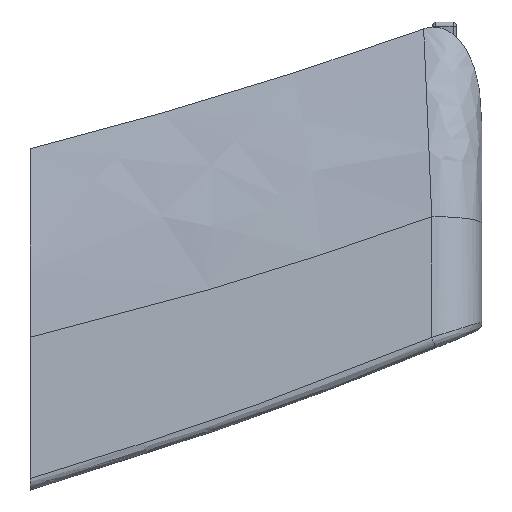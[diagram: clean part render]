
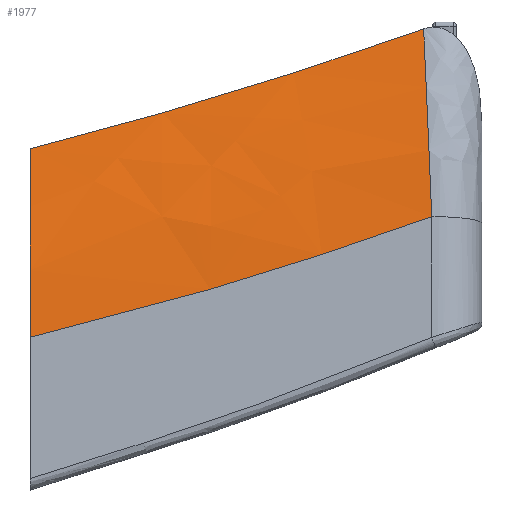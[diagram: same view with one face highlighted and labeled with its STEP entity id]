
A CAD part, top view. The second image highlights one B-rep face of the part: STEP entity #1977.
In plain terms, the highlighted free-form (B-spline) face has degree [3, 3] with [5, 4] control points.
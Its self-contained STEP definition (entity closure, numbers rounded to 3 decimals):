
#27=B_SPLINE_SURFACE_WITH_KNOTS('',3,3,((#4189,#4190,#4191,#4192),(#4193,
#4194,#4195,#4196),(#4197,#4198,#4199,#4200),(#4201,#4202,#4203,#4204),
(#4205,#4206,#4207,#4208)),.UNSPECIFIED.,.F.,.F.,.F.,(4,1,4),(4,4),(0.,
0.571,1.),(-42.215,-27.385),
 .UNSPECIFIED.);
#122=B_SPLINE_CURVE_WITH_KNOTS('',3,(#3638,#3639,#3640,#3641,#3642),
 .UNSPECIFIED.,.F.,.F.,(4,1,4),(-5.635,-3.244,0.),
 .UNSPECIFIED.);
#139=B_SPLINE_CURVE_WITH_KNOTS('',3,(#4185,#4186,#4187,#4188),
 .UNSPECIFIED.,.F.,.F.,(4,4),(27.385,40.344),
 .UNSPECIFIED.);
#140=B_SPLINE_CURVE_WITH_KNOTS('',3,(#4210,#4211,#4212,#4213,#4214,#4215),
 .UNSPECIFIED.,.F.,.F.,(4,2,4),(-6.421,-3.199,0.),
 .UNSPECIFIED.);
#230=CIRCLE('',#2189,1367.754);
#356=FACE_OUTER_BOUND('',#473,.T.);
#473=EDGE_LOOP('',(#1776,#1777,#1778,#1779));
#921=VERTEX_POINT('',#3624);
#922=VERTEX_POINT('',#3637);
#941=VERTEX_POINT('',#4183);
#942=VERTEX_POINT('',#4209);
#1188=EDGE_CURVE('',#921,#922,#122,.T.);
#1230=EDGE_CURVE('',#941,#922,#139,.T.);
#1231=EDGE_CURVE('',#941,#942,#140,.T.);
#1232=EDGE_CURVE('',#942,#921,#230,.T.);
#1776=ORIENTED_EDGE('',*,*,#1231,.F.);
#1777=ORIENTED_EDGE('',*,*,#1230,.T.);
#1778=ORIENTED_EDGE('',*,*,#1188,.F.);
#1779=ORIENTED_EDGE('',*,*,#1232,.F.);
#1977=ADVANCED_FACE('',(#356),#27,.F.);
#2189=AXIS2_PLACEMENT_3D('',#4216,#2723,#2724);
#2723=DIRECTION('center_axis',(0.,0.,1.));
#2724=DIRECTION('ref_axis',(0.144,-0.99,0.));
#3624=CARTESIAN_POINT('',(169.09,59.08,0.));
#3637=CARTESIAN_POINT('',(171.605,0.812,23.69));
#3638=CARTESIAN_POINT('Ctrl Pts',(169.09,59.08,0.));
#3639=CARTESIAN_POINT('Ctrl Pts',(169.423,51.816,5.319));
#3640=CARTESIAN_POINT('Ctrl Pts',(170.247,33.386,16.012));
#3641=CARTESIAN_POINT('Ctrl Pts',(171.113,12.868,21.951));
#3642=CARTESIAN_POINT('Ctrl Pts',(171.605,0.812,23.69));
#4183=CARTESIAN_POINT('',(47.045,-36.593,24.486));
#4185=CARTESIAN_POINT('Ctrl Pts',(47.045,-36.593,24.486));
#4186=CARTESIAN_POINT('Ctrl Pts',(89.17,-26.456,24.576));
#4187=CARTESIAN_POINT('Ctrl Pts',(130.828,-13.962,24.312));
#4188=CARTESIAN_POINT('Ctrl Pts',(171.605,0.812,23.69));
#4189=CARTESIAN_POINT('Ctrl Pts',(169.09,59.08,0.));
#4190=CARTESIAN_POINT('Ctrl Pts',(124.728,43.286,0.));
#4191=CARTESIAN_POINT('Ctrl Pts',(79.498,29.772,0.));
#4192=CARTESIAN_POINT('Ctrl Pts',(33.804,18.65,0.));
#4193=CARTESIAN_POINT('Ctrl Pts',(172.48,50.512,7.042));
#4194=CARTESIAN_POINT('Ctrl Pts',(127.75,34.45,7.299));
#4195=CARTESIAN_POINT('Ctrl Pts',(82.105,20.76,7.41));
#4196=CARTESIAN_POINT('Ctrl Pts',(35.978,9.548,7.379));
#4197=CARTESIAN_POINT('Ctrl Pts',(179.014,33.824,17.01));
#4198=CARTESIAN_POINT('Ctrl Pts',(133.619,17.174,17.636));
#4199=CARTESIAN_POINT('Ctrl Pts',(87.194,3.109,17.908));
#4200=CARTESIAN_POINT('Ctrl Pts',(40.242,-8.263,17.831));
#4201=CARTESIAN_POINT('Ctrl Pts',(186.128,15.389,22.139));
#4202=CARTESIAN_POINT('Ctrl Pts',(140.054,-1.964,22.935));
#4203=CARTESIAN_POINT('Ctrl Pts',(92.809,-16.463,23.282));
#4204=CARTESIAN_POINT('Ctrl Pts',(44.978,-27.995,23.183));
#4205=CARTESIAN_POINT('Ctrl Pts',(189.21,7.354,23.398));
#4206=CARTESIAN_POINT('Ctrl Pts',(142.848,-10.305,24.228));
#4207=CARTESIAN_POINT('Ctrl Pts',(95.252,-24.993,24.589));
#4208=CARTESIAN_POINT('Ctrl Pts',(47.045,-36.593,24.486));
#4209=CARTESIAN_POINT('',(47.045,21.943,0.));
#4210=CARTESIAN_POINT('Ctrl Pts',(47.045,-36.593,24.486));
#4211=CARTESIAN_POINT('Ctrl Pts',(47.045,-25.956,22.968));
#4212=CARTESIAN_POINT('Ctrl Pts',(47.045,-15.549,20.101));
#4213=CARTESIAN_POINT('Ctrl Pts',(47.045,4.196,11.832));
#4214=CARTESIAN_POINT('Ctrl Pts',(47.045,13.473,6.476));
#4215=CARTESIAN_POINT('Ctrl Pts',(47.045,21.943,0.));
#4216=CARTESIAN_POINT('Origin',(-289.67,1347.602,0.));
